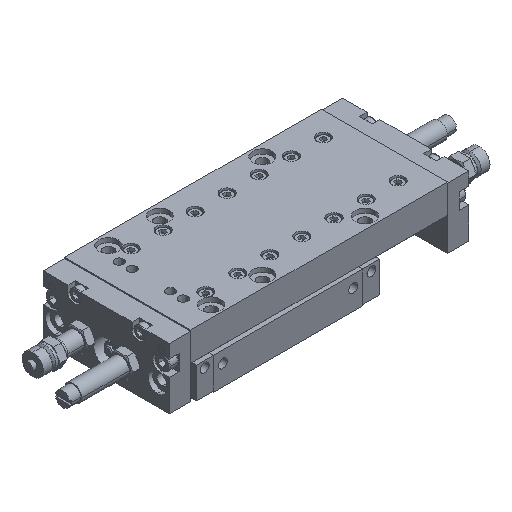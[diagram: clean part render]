
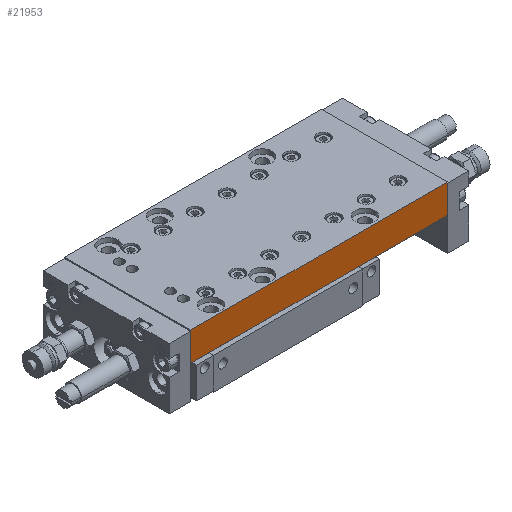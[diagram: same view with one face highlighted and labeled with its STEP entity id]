
A CAD part, isometric view. The second image highlights one B-rep face of the part: STEP entity #21953.
In plain terms, the highlighted planar face has unit normal (0, -1, 0).
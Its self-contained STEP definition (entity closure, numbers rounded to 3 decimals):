
#21898=CARTESIAN_POINT('',(130.,0.,30.));
#21899=DIRECTION('',(0.0,-1.0,0.0));
#21900=DIRECTION('',(0.0,0.0,-1.0));
#21901=AXIS2_PLACEMENT_3D('',#21898,#21899,#21900);
#21902=PLANE('',#21901);
#21903=CARTESIAN_POINT('',(10.,0.,30.));
#21904=VERTEX_POINT('',#21903);
#21905=CARTESIAN_POINT('',(10.,0.,29.5));
#21906=VERTEX_POINT('',#21905);
#21907=CARTESIAN_POINT('',(10.,0.,30.));
#21908=DIRECTION('',(0.,0.,-1.0));
#21909=VECTOR('',#21908,0.5);
#21910=LINE('',#21907,#21909);
#21911=EDGE_CURVE('',#21904,#21906,#21910,.T.);
#21912=ORIENTED_EDGE('',*,*,#21911,.T.);
#21913=CARTESIAN_POINT('',(10.,0.,16.5));
#21914=VERTEX_POINT('',#21913);
#21915=CARTESIAN_POINT('',(10.,0.,29.5));
#21916=DIRECTION('',(0.0,0.0,-1.0));
#21917=VECTOR('',#21916,13.);
#21918=LINE('',#21915,#21917);
#21919=EDGE_CURVE('',#21906,#21914,#21918,.T.);
#21920=ORIENTED_EDGE('',*,*,#21919,.T.);
#21921=CARTESIAN_POINT('',(130.,0.,16.5));
#21922=VERTEX_POINT('',#21921);
#21923=CARTESIAN_POINT('',(130.,0.,16.5));
#21924=DIRECTION('',(-1.0,0.0,0.0));
#21925=VECTOR('',#21924,120.0);
#21926=LINE('',#21923,#21925);
#21927=EDGE_CURVE('',#21922,#21914,#21926,.T.);
#21928=ORIENTED_EDGE('',*,*,#21927,.F.);
#21929=CARTESIAN_POINT('',(130.,0.,29.5));
#21930=VERTEX_POINT('',#21929);
#21931=CARTESIAN_POINT('',(130.,0.,29.5));
#21932=DIRECTION('',(0.0,0.0,-1.0));
#21933=VECTOR('',#21932,13.);
#21934=LINE('',#21931,#21933);
#21935=EDGE_CURVE('',#21930,#21922,#21934,.T.);
#21936=ORIENTED_EDGE('',*,*,#21935,.F.);
#21937=CARTESIAN_POINT('',(130.,0.,30.));
#21938=VERTEX_POINT('',#21937);
#21939=CARTESIAN_POINT('',(130.,0.,30.));
#21940=DIRECTION('',(0.0,0.0,-1.0));
#21941=VECTOR('',#21940,0.5);
#21942=LINE('',#21939,#21941);
#21943=EDGE_CURVE('',#21938,#21930,#21942,.T.);
#21944=ORIENTED_EDGE('',*,*,#21943,.F.);
#21945=CARTESIAN_POINT('',(130.,0.,30.));
#21946=DIRECTION('',(-1.0,0.0,0.0));
#21947=VECTOR('',#21946,120.);
#21948=LINE('',#21945,#21947);
#21949=EDGE_CURVE('',#21938,#21904,#21948,.T.);
#21950=ORIENTED_EDGE('',*,*,#21949,.T.);
#21951=EDGE_LOOP('',(#21912,#21920,#21928,#21936,#21944,#21950));
#21952=FACE_OUTER_BOUND('',#21951,.T.);
#21953=ADVANCED_FACE('',(#21952),#21902,.T.);
